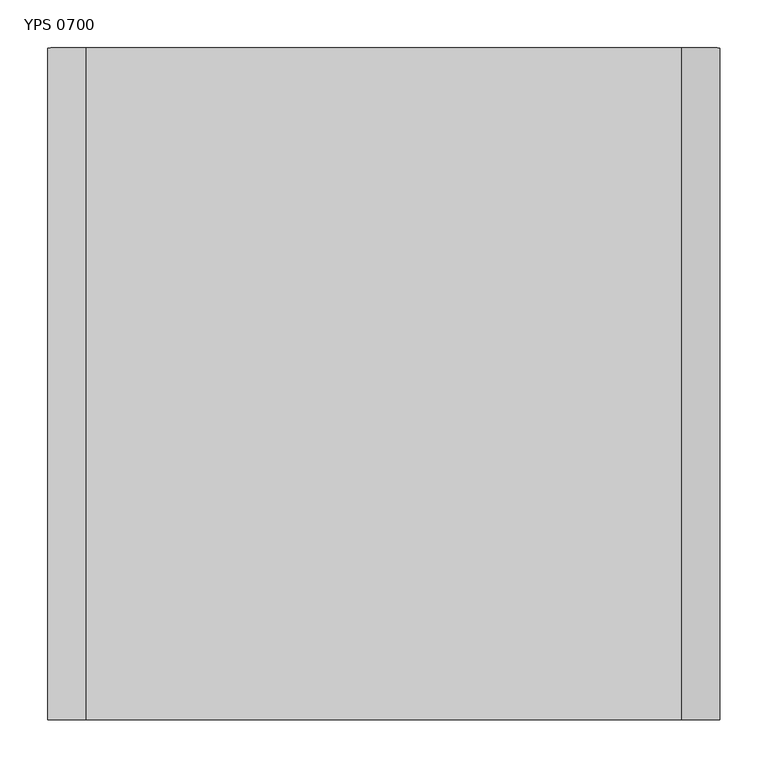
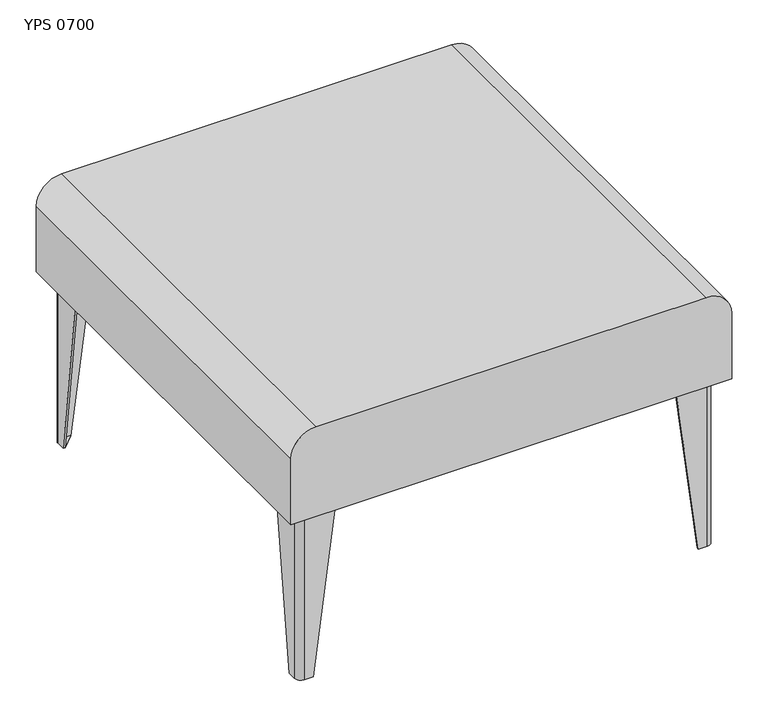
"""IFC4 building model written with IfcOpenShell, lengths in millimetres: furniture geometry, Mobiliário_Mobiliário de Escritório_LinhaYoung_Puff YPS 0700_Marelli : YPS 0700."""

from ifc_helpers import new_model, si_unit, point, frame, frame_2d, origin, origin_with_axes, place, context, project, spatial, polyline, circle_curve, trimmed, segment, composite_curve, outline, extrude, source, transform, mapped, element, save
from ifc_brep_helpers import plane_surface, cylinder_surface, revolved_surface, advanced_brep


def yps_0700_d034030b(model_context):
    return source(origin(), model_context, "Body", "SolidModel", [
        advanced_brep(
        [(20.0, 75.0, 280.0), (20.0, 25.0, 280.0), (30.0, 15.0, 280.0), (80.0, 15.0, 280.0), (80.0, 18.0, 280.0), (30.0, 18.0, 280.0), (23.0, 25.0, 280.0), (23.0, 75.0, 280.0), (20.0, 39.0, 0.0), (23.0, 39.0, 0.0), (23.0, 25.0, 0.0), (30.0, 18.0, 0.0), (44.0, 18.0, 0.0), (44.0, 15.0, 0.0), (30.0, 15.0, 0.0), (20.0, 25.0, 0.0)],
        [
            (0, 1),
            (1, 2, circle_curve(frame((30.0, 25.0, 280.0), z_axis=(0.0, 0.0, 1.0), x_axis=(0.0, -1.0, 0.0)), 10.0)),
            (2, 3),
            (3, 4),
            (4, 5),
            (5, 6, circle_curve(frame((30.0, 25.0, 280.0), z_axis=(0.0, 0.0, -1.0), x_axis=(-1.0, 0.0, 0.0)), 7.0)),
            (6, 7),
            (7, 0),
            (8, 9),
            (9, 10),
            (10, 11, circle_curve(frame((30.0, 25.0, 0.0), z_axis=(0.0, 0.0, 1.0), x_axis=(-1.0, 0.0, 0.0)), 7.0)),
            (11, 12),
            (12, 13),
            (13, 14),
            (14, 15, circle_curve(frame((30.0, 25.0, 0.0), z_axis=(0.0, 0.0, -1.0), x_axis=(0.0, -1.0, 0.0)), 10.0)),
            (15, 8),
            (15, 1),
            (0, 8),
            (14, 2),
            (13, 3),
            (12, 4),
            (11, 5),
            (10, 6),
            (9, 7),
        ],
        [
            plane_surface(frame((38.25, 33.25, 280.0), z_axis=(0.0, 0.0, 1.0), x_axis=(0.0, -1.0, 0.0))),
            plane_surface(frame((29.25, 24.25, 0.0), z_axis=(0.0, 0.0, -1.0), x_axis=(0.0, -1.0, 0.0))),
            plane_surface(frame((20.0, 32.0, 0.0), z_axis=(-1.0, 0.0, 0.0), x_axis=(0.0, -1.0, 0.0))),
            cylinder_surface(frame((30.0, 25.0, 0.0), z_axis=(0.0, 0.0, 1.0), x_axis=(0.0, -1.0, 0.0)), 10.0),
            plane_surface(frame((37.0, 15.0, 0.0), z_axis=(0.0, -1.0, 0.0), x_axis=(1.0, 0.0, 0.0))),
            plane_surface(frame((44.0, 16.5, 0.0), z_axis=(0.9918357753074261, 0.0, -0.12752174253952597), x_axis=(0.0, 1.0, 0.0))),
            plane_surface(frame((37.0, 18.0, 0.0), z_axis=(0.0, 1.0, 0.0), x_axis=(-1.0, 0.0, 0.0))),
            revolved_surface(polyline([(23.0, 25.0, 280.0), (23.0, 25.0, 0.0)]), (30.0, 25.0, 0.0), (0.0, 0.0, 1.0)),
            plane_surface(frame((23.0, 32.0, 0.0), z_axis=(1.0, 0.0, 0.0), x_axis=(0.0, 1.0, 0.0))),
            plane_surface(frame((21.5, 39.0, 0.0), z_axis=(0.0, 0.9918357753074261, -0.12752174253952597), x_axis=(-1.0, 0.0, 0.0))),
        ],
        [
            (0, [[1, 2, 3, 4, 5, 6, 7, 8]]),
            (1, [[9, 10, 11, 12, 13, 14, 15, 16]]),
            (2, [[-16, 17, -1, 18]]),
            (3, [[-15, 19, -2, -17]]),
            (4, [[-14, 20, -3, -19]]),
            (5, [[-13, 21, -4, -20]]),
            (6, [[-12, 22, -5, -21]]),
            (7, [[-11, 23, -6, -22]]),
            (8, [[-10, 24, -7, -23]]),
            (9, [[-9, -18, -8, -24]]),
        ],
    ),
        advanced_brep(
        [(680.0, 75.0, 280.0), (677.0, 75.0, 280.0), (677.0, 25.0, 280.0), (670.0, 18.0, 280.0), (620.0, 18.0, 280.0), (620.0, 15.0, 280.0), (670.0, 15.0, 280.0), (680.0, 25.0, 280.0), (680.0, 39.0, 0.0), (680.0, 25.0, 0.0), (670.0, 15.0, 0.0), (656.0, 15.0, 0.0), (656.0, 18.0, 0.0), (670.0, 18.0, 0.0), (677.0, 25.0, 0.0), (677.0, 39.0, 0.0)],
        [
            (0, 1),
            (1, 2),
            (2, 3, circle_curve(frame((670.0, 25.0, 280.0), z_axis=(0.0, 0.0, -1.0), x_axis=(0.0, -1.0, 0.0)), 7.0)),
            (3, 4),
            (4, 5),
            (5, 6),
            (6, 7, circle_curve(frame((670.0, 25.0, 280.0), z_axis=(0.0, 0.0, 1.0), x_axis=(1.0, 0.0, 0.0)), 10.0)),
            (7, 0),
            (8, 9),
            (9, 10, circle_curve(frame((670.0, 25.0, 0.0), z_axis=(0.0, 0.0, -1.0), x_axis=(1.0, 0.0, 0.0)), 10.0)),
            (10, 11),
            (11, 12),
            (12, 13),
            (13, 14, circle_curve(frame((670.0, 25.0, 0.0), z_axis=(0.0, 0.0, 1.0), x_axis=(0.0, -1.0, 0.0)), 7.0)),
            (14, 15),
            (15, 8),
            (8, 0),
            (7, 9),
            (6, 10),
            (5, 11),
            (4, 12),
            (3, 13),
            (2, 14),
            (1, 15),
        ],
        [
            plane_surface(frame((661.75, 33.25, 280.0), z_axis=(0.0, 0.0, 1.0), x_axis=(-1.0, 0.0, 0.0))),
            plane_surface(frame((670.75, 24.25, 0.0), z_axis=(0.0, 0.0, -1.0), x_axis=(-1.0, 0.0, 0.0))),
            plane_surface(frame((680.0, 32.0, 0.0), z_axis=(1.0, 0.0, 0.0), x_axis=(0.0, 1.0, 0.0))),
            cylinder_surface(frame((670.0, 25.0, 0.0), z_axis=(0.0, 0.0, 1.0), x_axis=(1.0, 0.0, 0.0)), 10.0),
            plane_surface(frame((663.0, 15.0, 0.0), z_axis=(0.0, -1.0, 0.0), x_axis=(1.0, 0.0, 0.0))),
            plane_surface(frame((656.0, 16.5, 0.0), z_axis=(-0.9918357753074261, 0.0, -0.127521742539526), x_axis=(0.0, -1.0, 0.0))),
            plane_surface(frame((663.0, 18.0, 0.0), z_axis=(0.0, 1.0, 0.0), x_axis=(-1.0, 0.0, 0.0))),
            revolved_surface(polyline([(670.0, 18.0, 280.0), (670.0, 18.0, 0.0)]), (670.0, 25.0, 0.0), (0.0, 0.0, 1.0)),
            plane_surface(frame((677.0, 32.0, 0.0), z_axis=(-1.0, 0.0, 0.0), x_axis=(0.0, -1.0, 0.0))),
            plane_surface(frame((678.5, 39.0, 0.0), z_axis=(0.0, 0.9918357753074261, -0.12752174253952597), x_axis=(-1.0, 0.0, 0.0))),
        ],
        [
            (0, [[1, 2, 3, 4, 5, 6, 7, 8]]),
            (1, [[9, 10, 11, 12, 13, 14, 15, 16]]),
            (2, [[-9, 17, -8, 18]]),
            (3, [[-10, -18, -7, 19]]),
            (4, [[-11, -19, -6, 20]]),
            (5, [[-12, -20, -5, 21]]),
            (6, [[-13, -21, -4, 22]]),
            (7, [[-14, -22, -3, 23]]),
            (8, [[-15, -23, -2, 24]]),
            (9, [[-16, -24, -1, -17]]),
        ],
    ),
        advanced_brep(
        [(20.0, 625.0, 280.0), (23.0, 625.0, 280.0), (23.0, 675.0, 280.0), (30.0, 682.0, 280.0), (80.0, 682.0, 280.0), (80.0, 685.0, 280.0), (30.0, 685.0, 280.0), (20.0, 675.0, 280.0), (20.0, 661.0, 0.0), (20.0, 675.0, 0.0), (30.0, 685.0, 0.0), (44.0, 685.0, 0.0), (44.0, 682.0, 0.0), (30.0, 682.0, 0.0), (23.0, 675.0, 0.0), (23.0, 661.0, 0.0)],
        [
            (0, 1),
            (1, 2),
            (2, 3, circle_curve(frame((30.0, 675.0, 280.0), z_axis=(0.0, 0.0, -1.0), x_axis=(0.0, 1.0, 0.0)), 7.0)),
            (3, 4),
            (4, 5),
            (5, 6),
            (6, 7, circle_curve(frame((30.0, 675.0, 280.0), z_axis=(0.0, 0.0, 1.0), x_axis=(-1.0, 0.0, 0.0)), 10.0)),
            (7, 0),
            (8, 9),
            (9, 10, circle_curve(frame((30.0, 675.0, 0.0), z_axis=(0.0, 0.0, -1.0), x_axis=(-1.0, 0.0, 0.0)), 10.0)),
            (10, 11),
            (11, 12),
            (12, 13),
            (13, 14, circle_curve(frame((30.0, 675.0, 0.0), z_axis=(0.0, 0.0, 1.0), x_axis=(0.0, 1.0, 0.0)), 7.0)),
            (14, 15),
            (15, 8),
            (8, 0),
            (7, 9),
            (6, 10),
            (5, 11),
            (4, 12),
            (3, 13),
            (2, 14),
            (1, 15),
        ],
        [
            plane_surface(frame((38.25, 666.75, 280.0), z_axis=(0.0, 0.0, 1.0), x_axis=(1.0, 0.0, 0.0))),
            plane_surface(frame((29.25, 675.75, 0.0), z_axis=(0.0, 0.0, -1.0), x_axis=(1.0, 0.0, 0.0))),
            plane_surface(frame((20.0, 668.0, 0.0), z_axis=(-1.0, 0.0, 0.0), x_axis=(0.0, -1.0, 0.0))),
            cylinder_surface(frame((30.0, 675.0, 0.0), z_axis=(0.0, 0.0, 1.0), x_axis=(-1.0, 0.0, 0.0)), 10.0),
            plane_surface(frame((37.0, 685.0, 0.0), z_axis=(0.0, 1.0, 0.0), x_axis=(-1.0, 0.0, 0.0))),
            plane_surface(frame((44.0, 683.5, 0.0), z_axis=(0.9918357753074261, 0.0, -0.12752174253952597), x_axis=(0.0, 1.0, 0.0))),
            plane_surface(frame((37.0, 682.0, 0.0), z_axis=(0.0, -1.0, 0.0), x_axis=(1.0, 0.0, 0.0))),
            revolved_surface(polyline([(30.0, 682.0, 280.0), (30.0, 682.0, 0.0)]), (30.0, 675.0, 0.0), (0.0, 0.0, 1.0)),
            plane_surface(frame((23.0, 668.0, 0.0), z_axis=(1.0, 0.0, 0.0), x_axis=(0.0, 1.0, 0.0))),
            plane_surface(frame((21.5, 661.0, 0.0), z_axis=(0.0, -0.9918357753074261, -0.127521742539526), x_axis=(1.0, 0.0, 0.0))),
        ],
        [
            (0, [[1, 2, 3, 4, 5, 6, 7, 8]]),
            (1, [[9, 10, 11, 12, 13, 14, 15, 16]]),
            (2, [[-9, 17, -8, 18]]),
            (3, [[-10, -18, -7, 19]]),
            (4, [[-11, -19, -6, 20]]),
            (5, [[-12, -20, -5, 21]]),
            (6, [[-13, -21, -4, 22]]),
            (7, [[-14, -22, -3, 23]]),
            (8, [[-15, -23, -2, 24]]),
            (9, [[-16, -24, -1, -17]]),
        ],
    ),
        advanced_brep(
        [(680.0, 625.0, 280.0), (680.0, 675.0, 280.0), (670.0, 685.0, 280.0), (620.0, 685.0, 280.0), (620.0, 682.0, 280.0), (670.0, 682.0, 280.0), (677.0, 675.0, 280.0), (677.0, 625.0, 280.0), (680.0, 661.0, 0.0), (677.0, 661.0, 0.0), (677.0, 675.0, 0.0), (670.0, 682.0, 0.0), (656.0, 682.0, 0.0), (656.0, 685.0, 0.0), (670.0, 685.0, 0.0), (680.0, 675.0, 0.0)],
        [
            (0, 1),
            (1, 2, circle_curve(frame((670.0, 675.0, 280.0), z_axis=(0.0, 0.0, 1.0), x_axis=(0.0, 1.0, 0.0)), 10.0)),
            (2, 3),
            (3, 4),
            (4, 5),
            (5, 6, circle_curve(frame((670.0, 675.0, 280.0), z_axis=(0.0, 0.0, -1.0), x_axis=(1.0, 0.0, 0.0)), 7.0)),
            (6, 7),
            (7, 0),
            (8, 9),
            (9, 10),
            (10, 11, circle_curve(frame((670.0, 675.0, 0.0), z_axis=(0.0, 0.0, 1.0), x_axis=(1.0, 0.0, 0.0)), 7.0)),
            (11, 12),
            (12, 13),
            (13, 14),
            (14, 15, circle_curve(frame((670.0, 675.0, 0.0), z_axis=(0.0, 0.0, -1.0), x_axis=(0.0, 1.0, 0.0)), 10.0)),
            (15, 8),
            (15, 1),
            (0, 8),
            (14, 2),
            (13, 3),
            (12, 4),
            (11, 5),
            (10, 6),
            (9, 7),
        ],
        [
            plane_surface(frame((661.75, 666.75, 280.0), z_axis=(0.0, 0.0, 1.0), x_axis=(0.0, 1.0, 0.0))),
            plane_surface(frame((670.75, 675.75, 0.0), z_axis=(0.0, 0.0, -1.0), x_axis=(0.0, 1.0, 0.0))),
            plane_surface(frame((680.0, 668.0, 0.0), z_axis=(1.0, 0.0, 0.0), x_axis=(0.0, 1.0, 0.0))),
            cylinder_surface(frame((670.0, 675.0, 0.0), z_axis=(0.0, 0.0, 1.0), x_axis=(0.0, 1.0, 0.0)), 10.0),
            plane_surface(frame((663.0, 685.0, 0.0), z_axis=(0.0, 1.0, 0.0), x_axis=(-1.0, 0.0, 0.0))),
            plane_surface(frame((656.0, 683.5, 0.0), z_axis=(-0.9918357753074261, 0.0, -0.127521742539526), x_axis=(0.0, -1.0, 0.0))),
            plane_surface(frame((663.0, 682.0, 0.0), z_axis=(0.0, -1.0, 0.0), x_axis=(1.0, 0.0, 0.0))),
            revolved_surface(polyline([(677.0, 675.0, 280.0), (677.0, 675.0, 0.0)]), (670.0, 675.0, 0.0), (0.0, 0.0, 1.0)),
            plane_surface(frame((677.0, 668.0, 0.0), z_axis=(-1.0, 0.0, 0.0), x_axis=(0.0, -1.0, 0.0))),
            plane_surface(frame((678.5, 661.0, 0.0), z_axis=(0.0, -0.9918357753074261, -0.127521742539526), x_axis=(1.0, 0.0, 0.0))),
        ],
        [
            (0, [[1, 2, 3, 4, 5, 6, 7, 8]]),
            (1, [[9, 10, 11, 12, 13, 14, 15, 16]]),
            (2, [[-16, 17, -1, 18]]),
            (3, [[-15, 19, -2, -17]]),
            (4, [[-14, 20, -3, -19]]),
            (5, [[-13, 21, -4, -20]]),
            (6, [[-12, 22, -5, -21]]),
            (7, [[-11, 23, -6, -22]]),
            (8, [[-10, 24, -7, -23]]),
            (9, [[-9, -18, -8, -24]]),
        ],
    ),
        extrude(outline(composite_curve([segment(polyline([(23.0, 39.0), (44.0, 18.0), (30.0, 18.0)]), True, "CONTINUOUS"), segment(trimmed(circle_curve(frame_2d((30.0, 25.0)), 7.0), [point((30.0, 18.0))], [point((23.0, 25.0))], False, "CARTESIAN"), True, "CONTINUOUS"), segment(polyline([(23.0, 25.0), (23.0, 39.0)]), True, "CONTINUOUS")], self_intersect=False)), origin_with_axes(), (0.0, 0.0, 1.0), 1.0),
        extrude(outline(composite_curve([segment(polyline([(23.0, 661.0), (23.0, 675.0)]), True, "CONTINUOUS"), segment(trimmed(circle_curve(frame_2d((30.0, 675.0)), 7.0), [point((23.0, 675.0))], [point((30.0, 682.0))], False, "CARTESIAN"), True, "CONTINUOUS"), segment(polyline([(30.0, 682.0), (44.0, 682.0), (23.0, 661.0)]), True, "CONTINUOUS")], self_intersect=False)), origin_with_axes(), (0.0, 0.0, 1.0), 1.0),
        extrude(outline(composite_curve([segment(polyline([(677.0, 39.0), (677.0, 25.0)]), True, "CONTINUOUS"), segment(trimmed(circle_curve(frame_2d((670.0, 25.0)), 7.0), [point((677.0, 25.0))], [point((670.0, 18.0))], False, "CARTESIAN"), True, "CONTINUOUS"), segment(polyline([(670.0, 18.0), (656.0, 18.0), (677.0, 39.0)]), True, "CONTINUOUS")], self_intersect=False)), origin_with_axes(), (0.0, 0.0, 1.0), 1.0),
        extrude(outline(composite_curve([segment(polyline([(677.0, 661.0), (656.0, 682.0), (670.0, 682.0)]), True, "CONTINUOUS"), segment(trimmed(circle_curve(frame_2d((670.0, 675.0)), 7.0), [point((670.0, 682.0))], [point((677.0, 675.0))], False, "CARTESIAN"), True, "CONTINUOUS"), segment(polyline([(677.0, 675.0), (677.0, 661.0)]), True, "CONTINUOUS")], self_intersect=False)), origin_with_axes(), (0.0, 0.0, 1.0), 1.0),
        extrude(outline(composite_curve([segment(trimmed(circle_curve(frame_2d((30.0, 25.0)), 7.0), [point((30.0, 18.0))], [point((23.0, 25.0))], False, "CARTESIAN"), True, "CONTINUOUS"), segment(polyline([(23.0, 25.0), (23.0, 93.0)]), True, "CONTINUOUS"), segment(trimmed(circle_curve(frame_2d((28.0, 93.0)), 5.0), [point((23.0, 93.0))], [point((28.0, 98.0))], False, "CARTESIAN"), True, "CONTINUOUS"), segment(polyline([(28.0, 98.0), (51.9545624, 98.0)]), True, "CONTINUOUS"), segment(trimmed(circle_curve(frame_2d((52.6241051, 89.931755)), 8.0959783), [point((51.9545624, 98.0))], [point((58.520382, 95.479618))], False, "CARTESIAN"), True, "CONTINUOUS"), segment(polyline([(58.520382, 95.479618), (100.479618, 53.520382)]), True, "CONTINUOUS"), segment(trimmed(circle_curve(frame_2d((94.931755, 47.6241051)), 8.0959783), [point((100.479618, 53.520382))], [point((103.0, 46.9545624))], False, "CARTESIAN"), True, "CONTINUOUS"), segment(polyline([(103.0, 46.9545624), (103.0, 23.0)]), True, "CONTINUOUS"), segment(trimmed(circle_curve(frame_2d((98.0, 23.0)), 5.0), [point((103.0, 23.0))], [point((98.0, 18.0))], False, "CARTESIAN"), True, "CONTINUOUS"), segment(polyline([(98.0, 18.0), (30.0, 18.0)]), True, "CONTINUOUS")], self_intersect=False)), frame((0.0, 0.0, 279.0), z_axis=(0.0, 0.0, 1.0), x_axis=(1.0, 0.0, 0.0)), (0.0, 0.0, 1.0), 1.0),
        extrude(outline(composite_curve([segment(polyline([(30.0, 682.0), (98.0, 682.0)]), True, "CONTINUOUS"), segment(trimmed(circle_curve(frame_2d((98.0, 677.0)), 5.0), [point((98.0, 682.0))], [point((103.0, 677.0))], False, "CARTESIAN"), True, "CONTINUOUS"), segment(polyline([(103.0, 677.0), (103.0, 653.0454376)]), True, "CONTINUOUS"), segment(trimmed(circle_curve(frame_2d((94.931755, 652.3758949)), 8.0959783), [point((103.0, 653.0454376))], [point((100.479618, 646.479618))], False, "CARTESIAN"), True, "CONTINUOUS"), segment(polyline([(100.479618, 646.479618), (58.520382, 604.520382)]), True, "CONTINUOUS"), segment(trimmed(circle_curve(frame_2d((52.6241051, 610.068245)), 8.0959783), [point((58.520382, 604.520382))], [point((51.9545624, 602.0))], False, "CARTESIAN"), True, "CONTINUOUS"), segment(polyline([(51.9545624, 602.0), (28.0, 602.0)]), True, "CONTINUOUS"), segment(trimmed(circle_curve(frame_2d((28.0, 607.0)), 5.0), [point((28.0, 602.0))], [point((23.0, 607.0))], False, "CARTESIAN"), True, "CONTINUOUS"), segment(polyline([(23.0, 607.0), (23.0, 675.0)]), True, "CONTINUOUS"), segment(trimmed(circle_curve(frame_2d((30.0, 675.0)), 7.0), [point((23.0, 675.0))], [point((30.0, 682.0))], False, "CARTESIAN"), True, "CONTINUOUS")], self_intersect=False)), frame((0.0, 0.0, 279.0), z_axis=(0.0, 0.0, 1.0), x_axis=(1.0, 0.0, 0.0)), (0.0, 0.0, 1.0), 1.0),
        extrude(outline(composite_curve([segment(polyline([(670.0, 18.0), (602.0, 18.0)]), True, "CONTINUOUS"), segment(trimmed(circle_curve(frame_2d((602.0, 23.0)), 5.0), [point((602.0, 18.0))], [point((597.0, 23.0))], False, "CARTESIAN"), True, "CONTINUOUS"), segment(polyline([(597.0, 23.0), (597.0, 46.9545624)]), True, "CONTINUOUS"), segment(trimmed(circle_curve(frame_2d((605.068245, 47.6241051)), 8.0959783), [point((597.0, 46.9545624))], [point((599.520382, 53.520382))], False, "CARTESIAN"), True, "CONTINUOUS"), segment(polyline([(599.520382, 53.520382), (641.479618, 95.479618)]), True, "CONTINUOUS"), segment(trimmed(circle_curve(frame_2d((647.3758949, 89.931755)), 8.0959783), [point((641.479618, 95.479618))], [point((648.0454376, 98.0))], False, "CARTESIAN"), True, "CONTINUOUS"), segment(polyline([(648.0454376, 98.0), (672.0, 98.0)]), True, "CONTINUOUS"), segment(trimmed(circle_curve(frame_2d((672.0, 93.0)), 5.0), [point((672.0, 98.0))], [point((677.0, 93.0))], False, "CARTESIAN"), True, "CONTINUOUS"), segment(polyline([(677.0, 93.0), (677.0, 25.0)]), True, "CONTINUOUS"), segment(trimmed(circle_curve(frame_2d((670.0, 25.0)), 7.0), [point((677.0, 25.0))], [point((670.0, 18.0))], False, "CARTESIAN"), True, "CONTINUOUS")], self_intersect=False)), frame((0.0, 0.0, 279.0), z_axis=(0.0, 0.0, 1.0), x_axis=(1.0, 0.0, 0.0)), (0.0, 0.0, 1.0), 1.0),
        extrude(outline(composite_curve([segment(trimmed(circle_curve(frame_2d((670.0, 675.0)), 7.0), [point((670.0, 682.0))], [point((677.0, 675.0))], False, "CARTESIAN"), True, "CONTINUOUS"), segment(polyline([(677.0, 675.0), (677.0, 607.0)]), True, "CONTINUOUS"), segment(trimmed(circle_curve(frame_2d((672.0, 607.0)), 5.0), [point((677.0, 607.0))], [point((672.0, 602.0))], False, "CARTESIAN"), True, "CONTINUOUS"), segment(polyline([(672.0, 602.0), (648.0454376, 602.0)]), True, "CONTINUOUS"), segment(trimmed(circle_curve(frame_2d((647.3758949, 610.068245)), 8.0959783), [point((648.0454376, 602.0))], [point((641.479618, 604.520382))], False, "CARTESIAN"), True, "CONTINUOUS"), segment(polyline([(641.479618, 604.520382), (599.520382, 646.479618)]), True, "CONTINUOUS"), segment(trimmed(circle_curve(frame_2d((605.068245, 652.3758949)), 8.0959783), [point((599.520382, 646.479618))], [point((597.0, 653.0454376))], False, "CARTESIAN"), True, "CONTINUOUS"), segment(polyline([(597.0, 653.0454376), (597.0, 677.0)]), True, "CONTINUOUS"), segment(trimmed(circle_curve(frame_2d((602.0, 677.0)), 5.0), [point((597.0, 677.0))], [point((602.0, 682.0))], False, "CARTESIAN"), True, "CONTINUOUS"), segment(polyline([(602.0, 682.0), (670.0, 682.0)]), True, "CONTINUOUS")], self_intersect=False)), frame((0.0, 0.0, 279.0), z_axis=(0.0, 0.0, 1.0), x_axis=(1.0, 0.0, 0.0)), (0.0, 0.0, 1.0), 1.0),
        extrude(outline(composite_curve([segment(polyline([(280.0, 700.0), (390.0, 700.0)]), True, "CONTINUOUS"), segment(trimmed(circle_curve(frame_2d((390.0, 660.0)), 40.0), [point((390.0, 700.0))], [point((430.0, 660.0))], False, "CARTESIAN"), True, "CONTINUOUS"), segment(polyline([(430.0, 660.0), (430.0, 40.0)]), True, "CONTINUOUS"), segment(trimmed(circle_curve(frame_2d((390.0, 40.0)), 40.0), [point((430.0, 40.0))], [point((390.0, 0.0))], False, "CARTESIAN"), True, "CONTINUOUS"), segment(polyline([(390.0, 0.0), (280.0, 0.0), (280.0, 700.0)]), True, "CONTINUOUS")], self_intersect=False)), frame((0.0, 0.0, 0.0), z_axis=(0.0, 1.0, 0.0), x_axis=(0.0, 0.0, 1.0)), (0.0, 0.0, 1.0), 700.0),
    ])


if __name__ == "__main__":
    model = new_model("IFC4")
    model_context = context("Model", 3, world=origin())
    ifc_project = project(units=[si_unit("LENGTHUNIT", "METRE", prefix="MILLI")], contexts=[model_context])
    site = spatial("IfcSite", under=ifc_project)
    building = spatial("IfcBuilding", under=site)
    placement = place(None, origin())
    yps_0700_shape = yps_0700_d034030b(model_context)
    element("IfcFurniture", 1, ObjectType="Mobiliário_Mobiliário de Escritório_LinhaYoung_Puff YPS 0700_Marelli : YPS 0700", at=placement, inside=building, context=model_context, shape_type="MappedRepresentation", body=[
        mapped(yps_0700_shape, transform((0.0, 0.0, 0.0), x_axis=(1.0, 0.0, 0.0), y_axis=(0.0, 1.0, 0.0), z_axis=(0.0, 0.0, 1.0))),
    ])
    save(model, "model.ifc")
